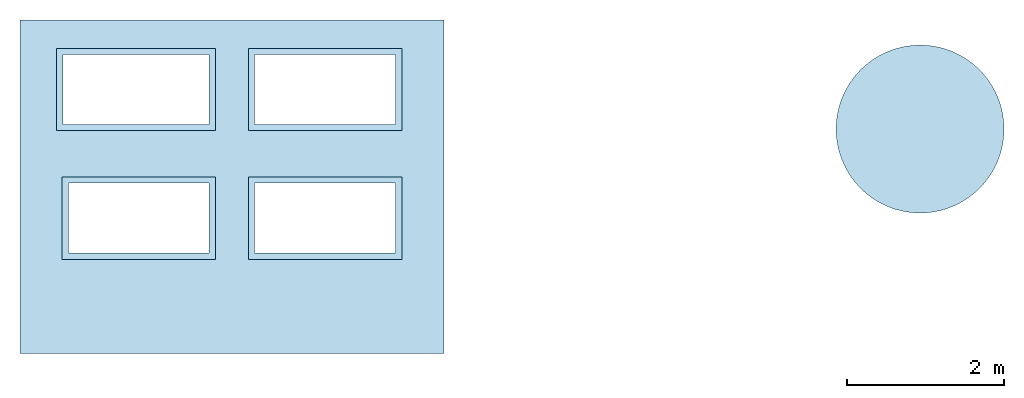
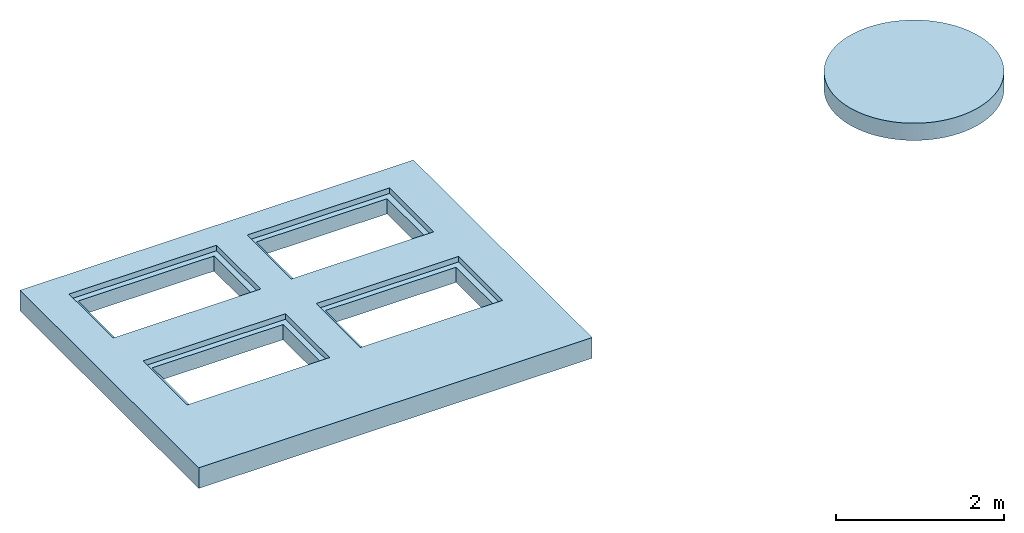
# One storey: 2 slabs, 4 openings.
"""IFC2X3 building model written with IfcOpenShell, lengths in centimetres."""

from ifc_helpers import new_model, entity, si_unit, converted_unit, derived_unit, direction, frame, frame_2d, origin, place, context, subcontext, project, spatial, rectangle, circle, extrude, faceted_brep, material, layer, layer_set, layer_usage, element, save


model = new_model("IFC2X3")

# Units and contexts
model_context = context("Model", 3, precision=0.001, world=origin(), true_north=direction((6.12303176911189e-17, 1.0)))
body_context = subcontext(model_context, "Body", "Model", "MODEL_VIEW")
ifc_project = project(units=[si_unit("LENGTHUNIT", "METRE", prefix="CENTI"), si_unit("AREAUNIT", "SQUARE_METRE"), si_unit("VOLUMEUNIT", "CUBIC_METRE"), converted_unit("PLANEANGLEUNIT", "DEGREE", entity("IfcRatioMeasure", 0.0174532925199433), si_unit("PLANEANGLEUNIT", "RADIAN"), dimensions=[0, 0, 0, 0, 0, 0, 0]), si_unit("MASSUNIT", "GRAM", prefix="KILO"), derived_unit("MASSDENSITYUNIT", [(si_unit("MASSUNIT", "GRAM", prefix="KILO"), 1), (si_unit("LENGTHUNIT", "METRE"), -3)]), si_unit("TIMEUNIT", "SECOND"), si_unit("FREQUENCYUNIT", "HERTZ"), si_unit("THERMODYNAMICTEMPERATUREUNIT", "DEGREE_CELSIUS"), derived_unit("THERMALTRANSMITTANCEUNIT", [(si_unit("MASSUNIT", "GRAM", prefix="KILO"), 1), (si_unit("THERMODYNAMICTEMPERATUREUNIT", "KELVIN"), -1), (si_unit("TIMEUNIT", "SECOND"), -3)]), derived_unit("VOLUMETRICFLOWRATEUNIT", [(si_unit("LENGTHUNIT", "METRE"), 3), (si_unit("TIMEUNIT", "SECOND"), -1)]), si_unit("ELECTRICCURRENTUNIT", "AMPERE"), si_unit("ELECTRICVOLTAGEUNIT", "VOLT"), si_unit("POWERUNIT", "WATT"), si_unit("FORCEUNIT", "NEWTON", prefix="KILO"), si_unit("ILLUMINANCEUNIT", "LUX"), si_unit("LUMINOUSFLUXUNIT", "LUMEN"), si_unit("LUMINOUSINTENSITYUNIT", "CANDELA"), derived_unit("USERDEFINED", [(si_unit("MASSUNIT", "GRAM", prefix="KILO"), -1), (si_unit("LENGTHUNIT", "METRE"), -2), (si_unit("TIMEUNIT", "SECOND"), 3), (si_unit("LUMINOUSFLUXUNIT", "LUMEN"), 1)]), derived_unit("LINEARVELOCITYUNIT", [(si_unit("LENGTHUNIT", "METRE"), 1), (si_unit("TIMEUNIT", "SECOND"), -1)]), si_unit("PRESSUREUNIT", "PASCAL"), derived_unit("USERDEFINED", [(si_unit("LENGTHUNIT", "METRE"), -2), (si_unit("MASSUNIT", "GRAM", prefix="KILO"), 1), (si_unit("TIMEUNIT", "SECOND"), -2)])], contexts=[model_context])

# Site, building, storey
site_placement = place(None, origin())
site = spatial("IfcSite", under=ifc_project, at=site_placement, Name="Default", CompositionType="ELEMENT")
building_placement = place(site_placement, origin())
building = spatial("IfcBuilding", under=site, at=building_placement, CompositionType="ELEMENT")
storey_placement = place(building_placement, origin())
storey = spatial("IfcBuildingStorey", under=building, at=storey_placement, Name="Niveau TN fini", CompositionType="ELEMENT", Elevation=0.0)

# Slab, openings
ifc_material_1 = material(Name="Sol par défaut")
ifc_layer_1 = layer(ifc_material_1, 30.0)
ifc_layer_set_1 = layer_set([ifc_layer_1], Name="Sol:Générique  300 mm")
ifc_layer_usage_1 = layer_usage(ifc_layer_set_1, "AXIS3", "POSITIVE", 0.0)
slab_1_placement = place(storey_placement, frame((-270.0, 829.999712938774, -30.0)))
slab_1 = element("IfcSlab", 1, at=slab_1_placement, inside=storey, material=ifc_layer_usage_1, Name="Sol:Générique  300 mm", ObjectType="Sol:Générique  300 mm", PredefinedType="FLOOR", context=body_context, shape_type="SweptSolid", body=[
    extrude(rectangle(XDim=425.0, YDim=539.999999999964, at=frame_2d((0.0, 0.0), x_axis=(0.0, -1.0))), frame((270.0, 212.5, 30.0), z_axis=(0.0, 0.0, -1.0), x_axis=(-1.0, 0.0, 0.0)), (0.0, 0.0, 1.0), 30.0),
])
opening_1_placement = place(slab_1_placement, frame((291.0, 120.000287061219, -335.33297845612)))
element("IfcOpeningElement", 2, at=opening_1_placement, cuts=slab_1, ObjectType="Opening", context=body_context, shape_type="Brep", body=[
    faceted_brep([(8.0, 8.0, 625.33297845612), (8.0, 97.0, 625.33297845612), (8.0, 97.0, 365.332978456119), (8.0, 8.0, 365.332978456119), (8.0, 97.0, 357.332978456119), (187.500000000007, 97.0, 357.332978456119), (187.500000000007, 97.0, 0.0), (8.0, 97.0, 0.0), (187.500000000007, 97.0, 625.33297845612), (187.500000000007, 97.0, 365.332978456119), (8.0, 8.0, 357.332978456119), (8.0, 8.0, 0.0), (187.500000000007, 8.0, 625.33297845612), (187.500000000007, 8.0, 365.332978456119), (187.500000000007, 8.0, 357.332978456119), (187.500000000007, 8.0, 0.0), (0.0, 105.0, 357.332978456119), (0.0, 105.0, 365.332978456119), (195.500000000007, 105.0, 365.332978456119), (195.500000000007, 105.0, 357.332978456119), (195.500000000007, 0.0, 365.332978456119), (195.500000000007, 0.0, 357.332978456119), (0.0, 0.0, 357.332978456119), (0.0, 0.0, 365.332978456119)], [[[0, 1, 2]], [[2, 3, 0]], [[4, 5, 6]], [[6, 7, 4]], [[1, 8, 2]], [[9, 2, 8]], [[10, 4, 11]], [[7, 11, 4]], [[12, 0, 13]], [[3, 13, 0]], [[14, 10, 11]], [[11, 15, 14]], [[8, 12, 13]], [[13, 9, 8]], [[5, 14, 6]], [[15, 6, 14]], [[12, 8, 1]], [[1, 0, 12]], [[11, 7, 6]], [[6, 15, 11]], [[16, 17, 18]], [[18, 19, 16]], [[19, 18, 20]], [[20, 21, 19]], [[21, 20, 22]], [[23, 22, 20]], [[22, 23, 16]], [[17, 16, 23]], [[22, 10, 14]], [[10, 22, 4]], [[21, 14, 5]], [[14, 21, 22]], [[4, 16, 5]], [[16, 4, 22]], [[5, 19, 21]], [[19, 5, 16]], [[20, 13, 3]], [[13, 20, 9]], [[23, 3, 2]], [[3, 23, 20]], [[9, 18, 2]], [[18, 9, 20]], [[2, 17, 23]], [[17, 2, 18]]]),
])
opening_2_placement = place(slab_1_placement, frame((53.4999999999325, 120.000287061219, -335.33297845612)))
element("IfcOpeningElement", 3, at=opening_2_placement, cuts=slab_1, ObjectType="Opening", context=body_context, shape_type="Brep", body=[
    faceted_brep([(187.500000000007, 97.0, 625.33297845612), (187.500000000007, 8.0, 625.33297845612), (187.500000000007, 8.0, 365.332978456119), (187.500000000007, 97.0, 365.332978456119), (187.500000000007, 8.0, 357.332978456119), (8.0, 8.0, 357.332978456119), (8.0, 8.0, 0.0), (187.500000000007, 8.0, 0.0), (8.0, 8.0, 625.33297845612), (8.0, 8.0, 365.332978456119), (8.0, 97.0, 357.332978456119), (8.0, 97.0, 0.0), (8.0, 97.0, 625.33297845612), (8.0, 97.0, 365.332978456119), (187.500000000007, 97.0, 357.332978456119), (187.500000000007, 97.0, 0.0), (0.0, 105.0, 357.332978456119), (0.0, 105.0, 365.332978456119), (195.500000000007, 105.0, 365.332978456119), (195.500000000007, 105.0, 357.332978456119), (195.500000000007, 0.0, 365.332978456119), (195.500000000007, 0.0, 357.332978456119), (0.0, 0.0, 357.332978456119), (0.0, 0.0, 365.332978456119)], [[[0, 1, 2]], [[2, 3, 0]], [[4, 5, 6]], [[6, 7, 4]], [[1, 8, 2]], [[9, 2, 8]], [[5, 10, 6]], [[11, 6, 10]], [[8, 12, 13]], [[13, 9, 8]], [[12, 0, 13]], [[3, 13, 0]], [[10, 14, 15]], [[15, 11, 10]], [[14, 4, 15]], [[7, 15, 4]], [[1, 0, 12]], [[12, 8, 1]], [[6, 11, 15]], [[15, 7, 6]], [[16, 17, 18]], [[18, 19, 16]], [[19, 18, 20]], [[20, 21, 19]], [[21, 20, 22]], [[23, 22, 20]], [[22, 23, 16]], [[17, 16, 23]], [[22, 5, 4]], [[5, 22, 10]], [[21, 4, 14]], [[4, 21, 22]], [[10, 16, 14]], [[16, 10, 22]], [[14, 19, 21]], [[19, 14, 16]], [[20, 2, 9]], [[2, 20, 3]], [[23, 9, 13]], [[9, 23, 20]], [[3, 18, 13]], [[18, 3, 20]], [[13, 17, 23]], [[17, 13, 18]]]),
])
opening_3_placement = place(slab_1_placement, frame((291.0, 284.000287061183, -335.33297845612)))
element("IfcOpeningElement", 4, at=opening_3_placement, cuts=slab_1, ObjectType="Opening", context=body_context, shape_type="Brep", body=[
    faceted_brep([(187.500000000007, 97.0, 357.332978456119), (187.500000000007, 8.0, 357.332978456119), (187.500000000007, 97.0, 0.0), (187.500000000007, 8.0, 0.0), (187.500000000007, 97.0, 625.33297845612), (187.500000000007, 8.0, 625.33297845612), (187.500000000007, 8.0, 365.332978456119), (187.500000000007, 97.0, 365.332978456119), (8.0, 8.0, 357.332978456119), (8.0, 8.0, 0.0), (8.0, 8.0, 625.33297845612), (8.0, 8.0, 365.332978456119), (8.0, 97.0, 357.332978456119), (8.0, 97.0, 0.0), (8.0, 97.0, 625.33297845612), (8.0, 97.0, 365.332978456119), (0.0, 105.0, 357.332978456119), (0.0, 105.0, 365.332978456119), (195.500000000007, 105.0, 365.332978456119), (195.500000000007, 105.0, 357.332978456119), (195.500000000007, 0.0, 365.332978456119), (195.500000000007, 0.0, 357.332978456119), (0.0, 0.0, 357.332978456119), (0.0, 0.0, 365.332978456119)], [[[0, 1, 2]], [[3, 2, 1]], [[4, 5, 6]], [[6, 7, 4]], [[1, 8, 9]], [[9, 3, 1]], [[5, 10, 6]], [[11, 6, 10]], [[8, 12, 9]], [[13, 9, 12]], [[10, 14, 15]], [[15, 11, 10]], [[12, 0, 2]], [[2, 13, 12]], [[14, 4, 15]], [[7, 15, 4]], [[5, 4, 14]], [[14, 10, 5]], [[9, 13, 2]], [[2, 3, 9]], [[16, 17, 18]], [[18, 19, 16]], [[19, 18, 20]], [[20, 21, 19]], [[21, 20, 22]], [[23, 22, 20]], [[22, 23, 16]], [[17, 16, 23]], [[22, 8, 1]], [[8, 22, 12]], [[21, 1, 0]], [[1, 21, 22]], [[12, 16, 0]], [[16, 12, 22]], [[0, 19, 21]], [[19, 0, 16]], [[20, 6, 11]], [[6, 20, 7]], [[23, 11, 15]], [[11, 23, 20]], [[7, 18, 15]], [[18, 7, 20]], [[15, 17, 23]], [[17, 15, 18]]]),
])
opening_4_placement = place(slab_1_placement, frame((46.4999999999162, 284.000287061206, -335.33297845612)))
element("IfcOpeningElement", 5, at=opening_4_placement, cuts=slab_1, ObjectType="Opening", context=body_context, shape_type="Brep", body=[
    faceted_brep([(194.500000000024, 97.0, 357.332978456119), (194.500000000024, 8.0, 357.332978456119), (194.500000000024, 97.0, 0.0), (194.500000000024, 8.0, 0.0), (194.500000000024, 97.0, 625.33297845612), (194.500000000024, 8.0, 625.33297845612), (194.500000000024, 8.0, 365.332978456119), (194.500000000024, 97.0, 365.332978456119), (8.0, 8.0, 357.332978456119), (8.0, 8.0, 0.0), (8.0, 8.0, 625.33297845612), (8.0, 8.0, 365.332978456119), (8.0, 97.0, 625.33297845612), (8.0, 97.0, 365.332978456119), (8.0, 97.0, 357.332978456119), (8.0, 97.0, 0.0), (0.0, 105.0, 357.332978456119), (0.0, 105.0, 365.332978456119), (202.500000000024, 105.0, 365.332978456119), (202.500000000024, 105.0, 357.332978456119), (202.500000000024, 0.0, 365.332978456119), (202.500000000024, 0.0, 357.332978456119), (0.0, 0.0, 365.332978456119), (0.0, 0.0, 357.332978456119)], [[[0, 1, 2]], [[3, 2, 1]], [[4, 5, 6]], [[6, 7, 4]], [[1, 8, 3]], [[9, 3, 8]], [[5, 10, 11]], [[11, 6, 5]], [[12, 4, 7]], [[7, 13, 12]], [[8, 14, 9]], [[15, 9, 14]], [[14, 0, 15]], [[2, 15, 0]], [[10, 12, 13]], [[13, 11, 10]], [[5, 4, 12]], [[12, 10, 5]], [[9, 15, 2]], [[2, 3, 9]], [[16, 17, 18]], [[18, 19, 16]], [[19, 18, 20]], [[20, 21, 19]], [[21, 20, 22]], [[22, 23, 21]], [[23, 22, 16]], [[17, 16, 22]], [[23, 8, 1]], [[8, 23, 14]], [[21, 1, 0]], [[1, 21, 23]], [[14, 16, 0]], [[16, 14, 23]], [[0, 19, 21]], [[19, 0, 16]], [[20, 6, 11]], [[6, 20, 7]], [[22, 11, 13]], [[11, 22, 20]], [[7, 18, 13]], [[18, 7, 20]], [[13, 17, 22]], [[17, 13, 18]]]),
])

# Slab
ifc_material_2 = material(Name="Béton, coulé sur place")
ifc_layer_2 = layer(ifc_material_2, 25.0)
ifc_layer_set_2 = layer_set([ifc_layer_2], Name="Sol:Béton - 250mm JBTP")
ifc_layer_usage_2 = layer_usage(ifc_layer_set_2, "AXIS3", "POSITIVE", 0.0)
slab_2_placement = place(storey_placement, origin())
element("IfcSlab", 6, at=slab_2_placement, inside=storey, material=ifc_layer_usage_2, Name="Sol:Béton - 250mm JBTP", ObjectType="Sol:Béton - 250mm JBTP", PredefinedType="FLOOR", context=body_context, shape_type="SweptSolid", body=[
    extrude(circle(Radius=107.0, at=frame_2d((-8.76711192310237e-28, 2.16573425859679e-13), x_axis=(1.0, 0.0))), frame((876.967590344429, 1116.02359988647, 0.0), z_axis=(0.0, 0.0, -1.0), x_axis=(-1.0, 0.0, 0.0)), (0.0, 0.0, 1.0), 25.0),
])

save(model, "model.ifc")
